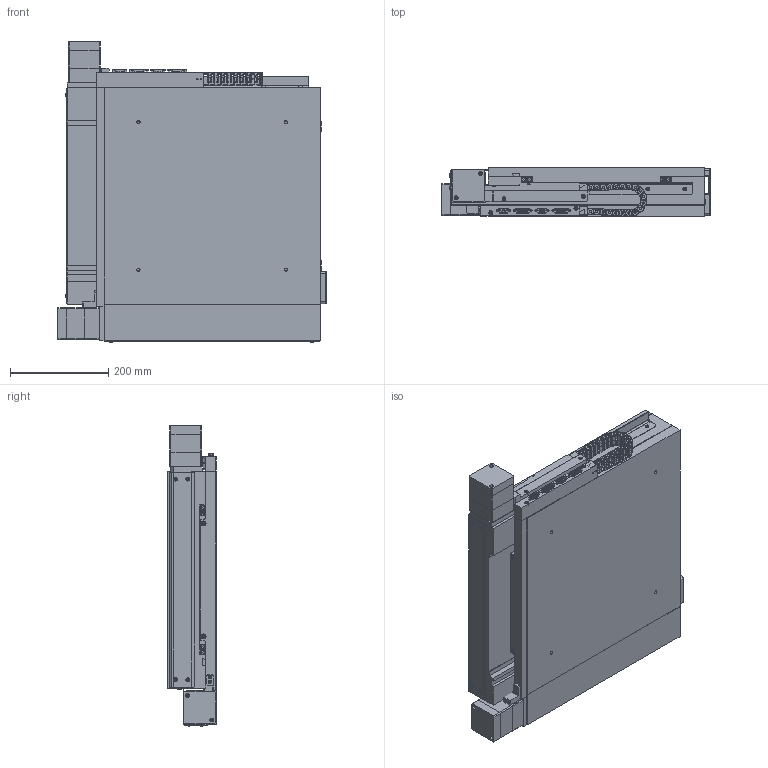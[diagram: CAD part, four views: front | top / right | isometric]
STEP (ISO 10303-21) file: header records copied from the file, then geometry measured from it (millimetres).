
FILE_DESCRIPTION (( 'STEP AP214' ), '1' );
FILE_NAME ('GXY-320-Rotary Encoder-EXPORT.STEP', '2025-07-08T14:06:01', ( 'lab' ), ( '' ), 'SwSTEP 2.0', 'SolidWorks 2018', '' );
FILE_SCHEMA (( 'AUTOMOTIVE_DESIGN' ));
Length unit declared in the file: millimetre
Products named in the file (16): 1000007_file_export2; 1000014_file_export62; 1000012_file_export48; 1000016_file_export56; 1000011; 1000009_91239A109; 1000010; GXY-320-Rotary Encoder-EXPORT; 1000008; 1000013_file_export47; 1000004_file_export7; 1000006_file_export13; 1000003_file_export4; 1000002_320; 1000001_320; 1000015_file_export57
Assembly tree (53 placements, depth 2):
  GXY-320-Rotary Encoder-EXPORT
    1000001_320
    1000002_320
    1000003_file_export4
    1000004_file_export7  x2
    1000006_file_export13  x6
    1000007_file_export2
    1000008
    1000009_91239A109  x4
    1000010
    1000011  x19
    1000012_file_export48  x2
    1000013_file_export47  x2
    1000014_file_export62  x8
    1000015_file_export57  x2
    1000016_file_export56  x2
Bounding box: 546 x 99 x 612.14 mm (x, y, z)
Volume: 24217819.2 mm3; surface area: 2416368 mm2
Topology: 169 solids, 169 shells, 5699 faces, 13924 edges, 8718 vertices
Faces by surface type: plane 3455, cylinder 1502, cone 374, bspline 340, torus 28
Entity records: 92063 total; most frequent: CARTESIAN_POINT 19798, DIRECTION 13355, ORIENTED_EDGE 12876, EDGE_CURVE 6438, AXIS2_PLACEMENT_3D 4496, VECTOR 4363, LINE 4363, VERTEX_POINT 3979
